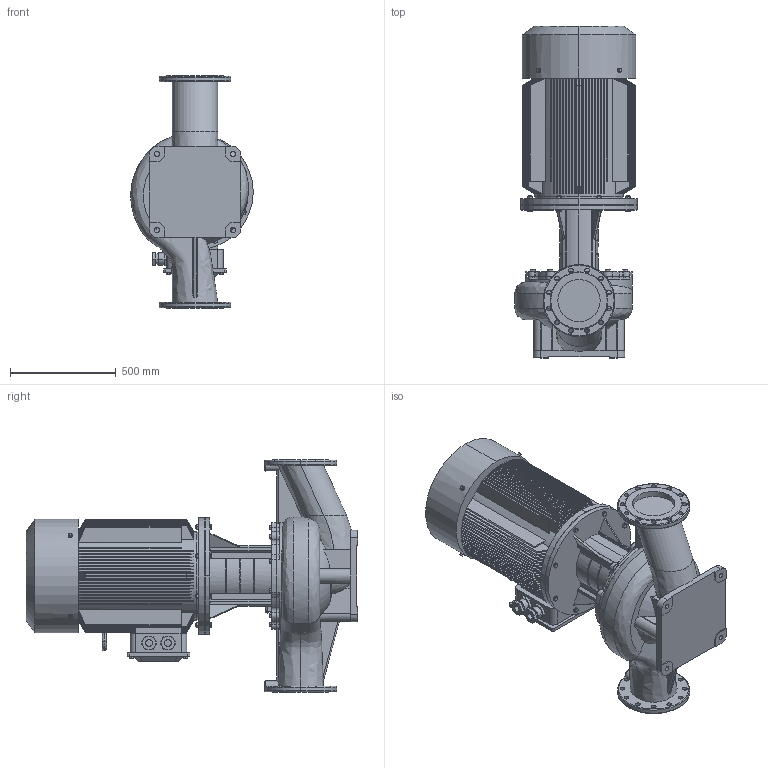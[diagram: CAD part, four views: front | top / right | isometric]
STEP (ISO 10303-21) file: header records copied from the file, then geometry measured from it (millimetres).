
FILE_DESCRIPTION (( 'STEP AP203' ), '1' );
FILE_NAME ('TD200-32G／4.STEP', '2026-09-07T03:10:10', ( '' ), ( '' ), 'SwSTEP 2.0', 'SolidWorks 2020', '' );
FILE_SCHEMA (( 'CONFIG_CONTROL_DESIGN' ));
Length unit declared in the file: millimetre
Products named in the file (1): TD200-32Gㄞ4
Bounding box: 578.3 x 1568 x 1100 mm (x, y, z)
Volume: 273789096.8 mm3; surface area: 9673833.5 mm2
Topology: 1 solids, 13 shells, 1857 faces, 4695 edges, 2971 vertices
Faces by surface type: plane 790, cylinder 506, cone 462, torus 53, bspline 46
Entity records: 80614 total; most frequent: CARTESIAN_POINT 36846, ORIENTED_EDGE 9386, DIRECTION 8843, EDGE_CURVE 4693, AXIS2_PLACEMENT_3D 3531, VERTEX_POINT 2971, EDGE_LOOP 2042, FACE_OUTER_BOUND 1857
